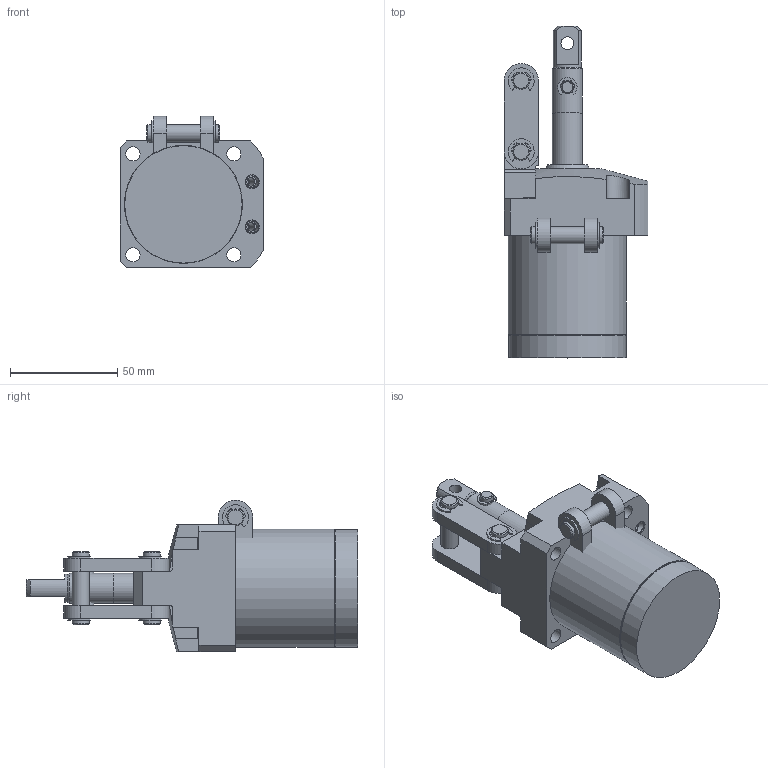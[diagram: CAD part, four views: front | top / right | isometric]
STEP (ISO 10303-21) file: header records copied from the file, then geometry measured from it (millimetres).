
FILE_DESCRIPTION( ( '' ), '1' );
FILE_NAME( 'W:/Catalogue/JL5H/JL5H34-25G/JL5H34-25G.stp', '2008-05-26T01:27:33', ( '機械事業部産業機器グループ' ), ( '豊和工業株式会社' ), 'XStep 1.0', ' ', ' ' );
FILE_SCHEMA( ( 'CONFIG_CONTROL_DESIGN' ) );
Length unit declared in the file: millimetre
Products named in the file (6): Assem1; 1; 2; 3; 4; 5
Bounding box: 67 x 154.5 x 70.5 mm (x, y, z)
Volume: 470339.5 mm3; surface area: 101089.9 mm2
Topology: 11 solids, 15 shells, 592 faces, 1521 edges, 995 vertices
Faces by surface type: plane 322, cylinder 222, cone 46, torus 2
Full cylindrical faces by diameter (mm): 2 x2, 4 x8, 4.2 x2, 5.5 x6, 6 x16, 6.5 x4, 6.6 x8, 8 x14, 8.3 x4, 13 x2, 14 x4, 16 x2, 20 x2, 24 x4, 34 x4, 54 x2, 54.7 x2, 55 x2
Entity records: 8800 total; most frequent: CARTESIAN_POINT 1678, DIRECTION 1504, ORIENTED_EDGE 1292, EDGE_CURVE 646, AXIS2_PLACEMENT_3D 590, VERTEX_POINT 458, EDGE_LOOP 398, FACE_OUTER_BOUND 333
